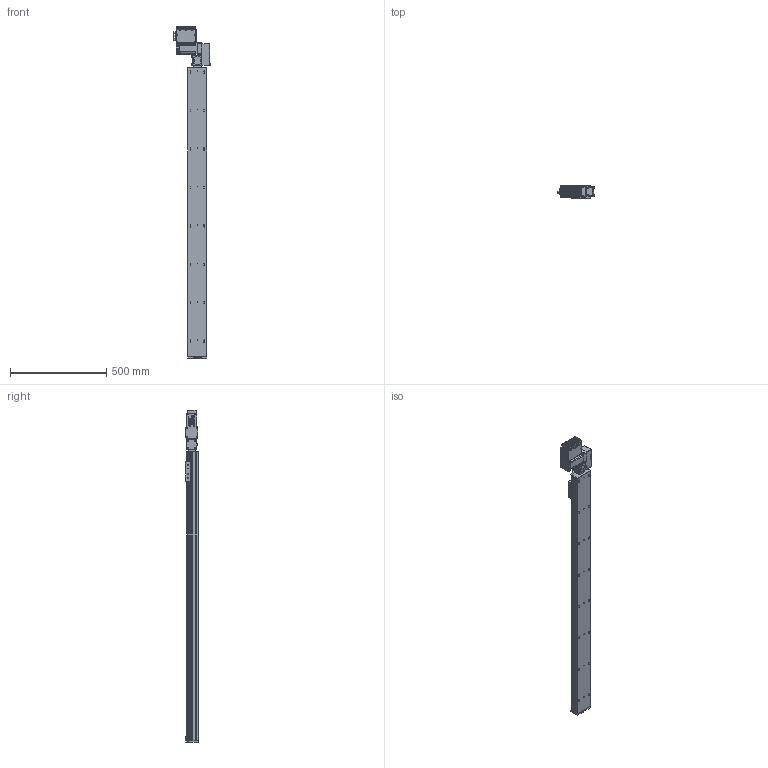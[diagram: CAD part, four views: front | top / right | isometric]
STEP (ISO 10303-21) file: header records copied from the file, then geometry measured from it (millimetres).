
FILE_DESCRIPTION (( 'STEP AP203' ), '1' );
FILE_NAME ('S10 TBN RH S1600.STEP', '2012-06-18T09:27:52', ( 'Conseil Régional Haute-Normandie' ), ( 'Conseil Régional Haute-Normandie' ), 'SwSTEP 2.0', 'SolidWorks 2010', '' );
FILE_SCHEMA (( 'CONFIG_CONTROL_DESIGN' ));
Length unit declared in the file: millimetre
Products named in the file (30): cache t皻e axe_Default; cache t皻e_Default; T_X2_00F4_X0_le contre le moteur_5; BU41 Carte Alimentation P05_3; T_X2_00F4_X0_le fond_3; Connecteur rond D10 3cts_5; Connecteur rond D12 4cts_5; T_X2_00F4_X0_le lat_X2_00E9_X0_rale_5; Vis TF 3 torkx_1_1; Cvis M5 L30_Default; S10 TBN RH S1600; axe 1500; embout; palette tbn; plaque de bout s10_Default; Plaque racord_Default; renvoi LH_Default; Assem1_7; Colonnette_3; BU45 Carte d''axe A11_5; Moteur 60BLDC90A_3; Couvercle_3; Sub D 9cts 90_X2_00B_X0__3; Radiateur profil_X2_00E9_X0_ 100x25_3; Colonnette ronde_3; T_X2_00F4_X0_le Arri_X2_00E8_X0_re_5; vis M5 L12_Default; Vis M5 L16-2_Default_1; vis M5 L5_Default; Vis TF 3 torkx
Assembly tree (69 placements, depth 3):
  S10 TBN RH S1600
    Vis TF 3 torkx  x7
    embout
    cache t皻e axe_Default
    Assem1_7
      Connecteur rond D10 3cts_5  x2
      Vis TF 3 torkx_1_1  x21
      Colonnette_3  x2
      Sub D 9cts 90_X2_00B_X0__3
      BU41 Carte Alimentation P05_3
      T_X2_00F4_X0_le lat_X2_00E9_X0_rale_5  x2
      Connecteur rond D12 4cts_5
      Radiateur profil_X2_00E9_X0_ 100x25_3
      T_X2_00F4_X0_le contre le moteur_5
      Couvercle_3
      Moteur 60BLDC90A_3
      T_X2_00F4_X0_le fond_3
      T_X2_00F4_X0_le Arri_X2_00E8_X0_re_5
      Colonnette ronde_3
      BU45 Carte d''axe A11_5
    vis M5 L5_Default  x4
    axe 1500
    palette tbn
    Cvis M5 L30_Default  x2
    Vis M5 L16-2_Default_1  x4
    renvoi LH_Default
    cache t皻e_Default  x2
    vis M5 L12_Default  x4
    Plaque racord_Default
    plaque de bout s10_Default
Bounding box: 189.8 x 66.75 x 1728.5 mm (x, y, z)
Volume: 8650744.9 mm3; surface area: 1037062.7 mm2
Topology: 68 solids, 68 shells, 2524 faces, 6265 edges, 4043 vertices
Faces by surface type: plane 1214, cylinder 1071, cone 196, bspline 40, torus 3
Entity records: 49479 total; most frequent: CARTESIAN_POINT 8869, DIRECTION 7974, ORIENTED_EDGE 7234, EDGE_CURVE 3617, AXIS2_PLACEMENT_3D 2959, VERTEX_POINT 2359, LINE 2056, VECTOR 2056
